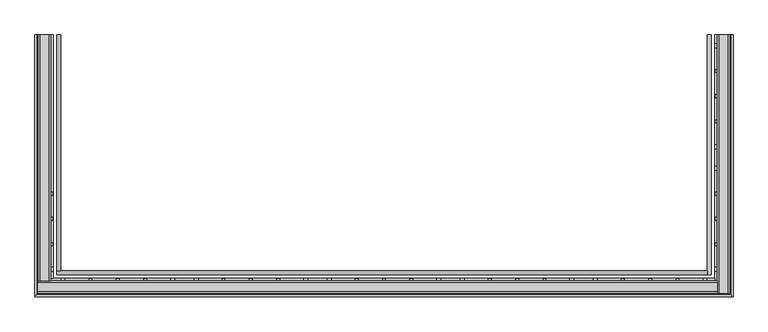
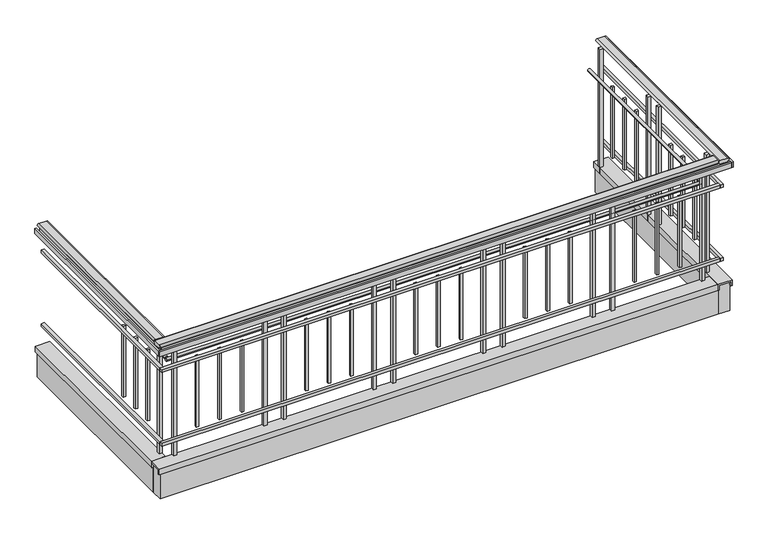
"""IFC4 building model written with IfcOpenShell, lengths in millimetres: railing geometry, Deco Type."""

from ifc_helpers import new_model, si_unit, point, frame, frame_2d, origin, origin_with_axes, place, context, project, spatial, polyline, circle_curve, trimmed, segment, composite_curve, outline, extrude, source, transform, mapped, element, save


def railing_da3c3019(model_context):
    return source(origin(), model_context, "Body", "SweptSolid", [
        extrude(outline(composite_curve([segment(polyline([(1098.55, -11224.1002872), (1098.55, -11287.4500398)]), True, "CONTINUOUS"), segment(trimmed(circle_curve(frame_2d((1087.4058145, -11287.4500398)), 11.1441855), [point((1098.55, -11287.4500398))], [point((1076.261629, -11287.4500398))], False, "CARTESIAN"), True, "CONTINUOUS"), segment(polyline([(1076.261629, -11287.4500398), (1066.8, -11287.4500398), (1066.8, -11224.1002872), (1076.3248415, -11224.1002872)]), True, "CONTINUOUS"), segment(trimmed(circle_curve(frame_2d((1087.4374207, -11224.1002872)), 11.1125793), [point((1076.3248415, -11224.1002872))], [point((1098.55, -11224.1002872))], False, "CARTESIAN"), True, "CONTINUOUS")], self_intersect=False)), frame((0.0, -9594.691348, 0.0), z_axis=(0.0, 1.0, 0.0), x_axis=(0.0, 0.0, 1.0)), (0.0, 0.0, 1.0), 1644.8001681),
        extrude(outline(composite_curve([segment(trimmed(circle_curve(frame_2d((-9605.8039273, 1087.4374207)), 11.1125793), [point((-9605.8039273, 1098.55))], [point((-9605.8039273, 1076.3248415))], False, "CARTESIAN"), True, "CONTINUOUS"), segment(polyline([(-9605.8039273, 1076.3248415), (-9605.8039273, 1066.8), (-9669.1536799, 1066.8), (-9669.1536799, 1076.261629)]), True, "CONTINUOUS"), segment(trimmed(circle_curve(frame_2d((-9669.1536799, 1087.4058145)), 11.1441855), [point((-9669.1536799, 1076.261629))], [point((-9669.1536799, 1098.55))], False, "CARTESIAN"), True, "CONTINUOUS"), segment(polyline([(-9669.1536799, 1098.55), (-9605.8039273, 1098.55)]), True, "CONTINUOUS")], self_intersect=False)), frame((-11298.5942253, 0.0, 0.0), z_axis=(1.0, 0.0, 0.0), x_axis=(0.0, 1.0, 0.0)), (0.0, 0.0, 1.0), 4545.1943536),
        extrude(outline(composite_curve([segment(trimmed(circle_curve(frame_2d((1087.4374207, -6742.2872924)), 11.1125793), [point((1098.55, -6742.2872924))], [point((1076.3248415, -6742.2872924))], False, "CARTESIAN"), True, "CONTINUOUS"), segment(polyline([(1076.3248415, -6742.2872924), (1066.8, -6742.2872924), (1066.8, -6678.9375398), (1076.261629, -6678.9375398)]), True, "CONTINUOUS"), segment(trimmed(circle_curve(frame_2d((1087.4058145, -6678.9375398)), 11.1441855), [point((1076.261629, -6678.9375398))], [point((1098.55, -6678.9375398))], False, "CARTESIAN"), True, "CONTINUOUS"), segment(polyline([(1098.55, -6678.9375398), (1098.55, -6742.2872924)]), True, "CONTINUOUS")], self_intersect=False)), frame((0.0, -9680.2978654, 0.0), z_axis=(0.0, 1.0, 0.0), x_axis=(0.0, 0.0, 1.0)), (0.0, 0.0, 1.0), 1730.4066855),
        extrude(outline(polyline([(-11281.1751635, -7949.8911799), (-11268.4751635, -7949.8911799), (-11268.4751635, -9650.1788036), (-11281.1751635, -9650.1788036), (-11281.1751635, -7949.8911799)])), frame((0.0, 0.0, 1022.35), z_axis=(0.0, 0.0, 1.0), x_axis=(1.0, 0.0, 0.0)), (0.0, 0.0, 1.0), 44.45),
        extrude(outline(polyline([(-11281.1751635, -9662.8788036), (-11281.1751635, -9650.1788036), (-6697.9124161, -9650.1788036), (-6697.9124161, -9662.8788036), (-11281.1751635, -9662.8788036)])), frame((0.0, 0.0, 1022.35), z_axis=(0.0, 0.0, 1.0), x_axis=(1.0, 0.0, 0.0)), (0.0, 0.0, 1.0), 44.45),
        extrude(outline(polyline([(-6685.2124161, -9662.8788036), (-6697.9124161, -9662.8788036), (-6697.9124161, -7949.8911799), (-6685.2124161, -7949.8911799), (-6685.2124161, -9662.8788036)])), frame((0.0, 0.0, 1022.35), z_axis=(0.0, 0.0, 1.0), x_axis=(1.0, 0.0, 0.0)), (0.0, 0.0, 1.0), 44.45),
        extrude(outline(polyline([(-11319.2751635, -7949.8911799), (-11306.5751635, -7949.8911799), (-11306.5751635, -9688.2788036), (-11319.2751635, -9688.2788036), (-11319.2751635, -7949.8911799)])), frame((0.0, 0.0, 1022.35), z_axis=(0.0, 0.0, 1.0), x_axis=(1.0, 0.0, 0.0)), (0.0, 0.0, 1.0), 44.45),
        extrude(outline(polyline([(-11319.2751635, -9700.9788036), (-11319.2751635, -9688.2788036), (-6659.8124161, -9688.2788036), (-6659.8124161, -9700.9788036), (-11319.2751635, -9700.9788036)])), frame((0.0, 0.0, 1022.35), z_axis=(0.0, 0.0, 1.0), x_axis=(1.0, 0.0, 0.0)), (0.0, 0.0, 1.0), 44.45),
        extrude(outline(polyline([(-6647.1124161, -9700.9788036), (-6659.8124161, -9700.9788036), (-6659.8124161, -7949.8911799), (-6647.1124161, -7949.8911799), (-6647.1124161, -9700.9788036)])), frame((0.0, 0.0, 1022.35), z_axis=(0.0, 0.0, 1.0), x_axis=(1.0, 0.0, 0.0)), (0.0, 0.0, 1.0), 44.45),
        extrude(outline(polyline([(-11268.4000398, -7949.8911799), (-11243.0000398, -7949.8911799), (-11243.0000398, -9624.7036799), (-11268.4000398, -9624.7036799), (-11268.4000398, -7949.8911799)])), frame((0.0, 0.0, 838.2), z_axis=(0.0, 0.0, 1.0), x_axis=(1.0, 0.0, 0.0)), (0.0, 0.0, 1.0), 25.4),
        extrude(outline(polyline([(-11268.4000398, -9650.1036799), (-11268.4000398, -9624.7036799), (-6723.3875398, -9624.7036799), (-6723.3875398, -9650.1036799), (-11268.4000398, -9650.1036799)])), frame((0.0, 0.0, 838.2), z_axis=(0.0, 0.0, 1.0), x_axis=(1.0, 0.0, 0.0)), (0.0, 0.0, 1.0), 25.4),
        extrude(outline(polyline([(-6697.9875398, -9650.1036799), (-6723.3875398, -9650.1036799), (-6723.3875398, -7949.8911799), (-6697.9875398, -7949.8911799), (-6697.9875398, -9650.1036799)])), frame((0.0, 0.0, 838.2), z_axis=(0.0, 0.0, 1.0), x_axis=(1.0, 0.0, 0.0)), (0.0, 0.0, 1.0), 25.4),
        extrude(outline(composite_curve([segment(trimmed(circle_curve(frame_2d((850.9, -11158.8625398)), 12.7), [point((850.9, -11146.1625398))], [point((850.9, -11171.5625398))], False, "CARTESIAN"), True, "CONTINUOUS"), segment(trimmed(circle_curve(frame_2d((850.9, -11158.8625398)), 12.7), [point((850.9, -11171.5625398))], [point((850.9, -11146.1625398))], False, "CARTESIAN"), True, "CONTINUOUS")], self_intersect=False)), frame((0.0, -9527.8661799, 0.0), z_axis=(0.0, 1.0, 0.0), x_axis=(0.0, 0.0, 1.0)), (0.0, 0.0, 1.0), 1577.975),
        extrude(outline(composite_curve([segment(trimmed(circle_curve(frame_2d((-9540.5661799, 850.9)), 12.7), [point((-9527.8661799, 850.9))], [point((-9553.2661799, 850.9))], False, "CARTESIAN"), True, "CONTINUOUS"), segment(trimmed(circle_curve(frame_2d((-9540.5661799, 850.9)), 12.7), [point((-9553.2661799, 850.9))], [point((-9527.8661799, 850.9))], False, "CARTESIAN"), True, "CONTINUOUS")], self_intersect=False)), frame((-11171.5625398, 0.0, 0.0), z_axis=(1.0, 0.0, 0.0), x_axis=(0.0, 1.0, 0.0)), (0.0, 0.0, 1.0), 4351.3375),
        extrude(outline(composite_curve([segment(trimmed(circle_curve(frame_2d((850.9, -6807.5250398)), 12.7), [point((850.9, -6820.2250398))], [point((850.9, -6794.8250398))], False, "CARTESIAN"), True, "CONTINUOUS"), segment(trimmed(circle_curve(frame_2d((850.9, -6807.5250398)), 12.7), [point((850.9, -6794.8250398))], [point((850.9, -6820.2250398))], False, "CARTESIAN"), True, "CONTINUOUS")], self_intersect=False)), frame((0.0, -9553.2661799, 0.0), z_axis=(0.0, 1.0, 0.0), x_axis=(0.0, 0.0, 1.0)), (0.0, 0.0, 1.0), 1603.375),
        extrude(outline(polyline([(-11268.4000398, -7949.8911799), (-11243.0000398, -7949.8911799), (-11243.0000398, -9624.7036799), (-11268.4000398, -9624.7036799), (-11268.4000398, -7949.8911799)])), frame((0.0, 0.0, 203.2), z_axis=(0.0, 0.0, 1.0), x_axis=(1.0, 0.0, 0.0)), (0.0, 0.0, 1.0), 25.4),
        extrude(outline(polyline([(-11268.4000398, -9650.1036799), (-11268.4000398, -9624.7036799), (-6723.3875398, -9624.7036799), (-6723.3875398, -9650.1036799), (-11268.4000398, -9650.1036799)])), frame((0.0, 0.0, 203.2), z_axis=(0.0, 0.0, 1.0), x_axis=(1.0, 0.0, 0.0)), (0.0, 0.0, 1.0), 25.4),
        extrude(outline(polyline([(-6697.9875398, -9650.1036799), (-6723.3875398, -9650.1036799), (-6723.3875398, -7949.8911799), (-6697.9875398, -7949.8911799), (-6697.9875398, -9650.1036799)])), frame((0.0, 0.0, 203.2), z_axis=(0.0, 0.0, 1.0), x_axis=(1.0, 0.0, 0.0)), (0.0, 0.0, 1.0), 25.4),
        extrude(outline(polyline([(49.0362864, -11197.0376635), (49.0362864, -11314.5126635), (0.0, -11314.5126635), (0.0, -11301.8126635), (36.3362864, -11301.8126635), (36.3362864, -11209.7376635), (0.0, -11209.7376635), (0.0, -11197.0376635), (49.0362864, -11197.0376635)])), frame((0.0, -9578.7413036, 0.0), z_axis=(0.0, 1.0, 0.0), x_axis=(0.0, 0.0, 1.0)), (0.0, 0.0, 1.0), 1628.8501237),
        extrude(outline(polyline([(-9578.7413036, 49.0362864), (-9578.7413036, 0.0), (-9591.4413036, 0.0), (-9591.4413036, 36.3362864), (-9683.5163036, 36.3362864), (-9683.5163036, 0.0), (-9696.2163036, 0.0), (-9696.2163036, 49.0362864), (-9578.7413036, 49.0362864)])), frame((-11314.5126635, 0.0, 0.0), z_axis=(1.0, 0.0, 0.0), x_axis=(0.0, 1.0, 0.0)), (0.0, 0.0, 1.0), 4545.1627474),
        extrude(outline(polyline([(49.0362864, -6769.3499161), (0.0, -6769.3499161), (0.0, -6756.6499161), (36.3362864, -6756.6499161), (36.3362864, -6664.5749161), (0.0, -6664.5749161), (0.0, -6651.8749161), (49.0362864, -6651.8749161), (49.0362864, -6769.3499161)])), frame((0.0, -9696.2163036, 0.0), z_axis=(0.0, 1.0, 0.0), x_axis=(0.0, 0.0, 1.0)), (0.0, 0.0, 1.0), 1746.3251237),
        extrude(outline(polyline([(-11301.8126635, -7949.8911799), (-11209.7376635, -7949.8911799), (-11209.7376635, -9591.4413036), (-11301.8126635, -9591.4413036), (-11301.8126635, -7949.8911799)])), frame((0.0, 0.0, -217.6637136), z_axis=(0.0, 0.0, 1.0), x_axis=(1.0, 0.0, 0.0)), (0.0, 0.0, 1.0), 254.0),
        extrude(outline(polyline([(-11301.8126635, -9683.5163036), (-11301.8126635, -9591.4413036), (-6756.6499161, -9591.4413036), (-6756.6499161, -9683.5163036), (-11301.8126635, -9683.5163036)])), frame((0.0, 0.0, -217.6637136), z_axis=(0.0, 0.0, 1.0), x_axis=(1.0, 0.0, 0.0)), (0.0, 0.0, 1.0), 254.0),
        extrude(outline(polyline([(-6664.5749161, -9683.5163036), (-6756.6499161, -9683.5163036), (-6756.6499161, -7949.8911799), (-6664.5749161, -7949.8911799), (-6664.5749161, -9683.5163036)])), frame((0.0, 0.0, -217.6637136), z_axis=(0.0, 0.0, 1.0), x_axis=(1.0, 0.0, 0.0)), (0.0, 0.0, 1.0), 254.0),
        extrude(outline(polyline([(-6744.0250398, -8035.0091946), (-6769.4250398, -8035.0091946), (-6769.4250398, -8009.6091946), (-6744.0250398, -8009.6091946), (-6744.0250398, -8035.0091946)])), origin_with_axes(), (0.0, 0.0, 1.0), 1066.8),
        extrude(outline(polyline([(-6747.2000398, -8200.8095623), (-6766.2500398, -8200.8095623), (-6766.2500398, -8181.7595623), (-6747.2000398, -8181.7595623), (-6747.2000398, -8200.8095623)])), frame((0.0, 0.0, 228.6), z_axis=(0.0, 0.0, 1.0), x_axis=(1.0, 0.0, 0.0)), (0.0, 0.0, 1.0), 609.6),
        extrude(outline(polyline([(-6747.2000398, -8369.7849299), (-6766.2500398, -8369.7849299), (-6766.2500398, -8350.7349299), (-6747.2000398, -8350.7349299), (-6747.2000398, -8369.7849299)])), frame((0.0, 0.0, 228.6), z_axis=(0.0, 0.0, 1.0), x_axis=(1.0, 0.0, 0.0)), (0.0, 0.0, 1.0), 609.6),
        extrude(outline(polyline([(-6747.2000398, -8538.7602976), (-6766.2500398, -8538.7602976), (-6766.2500398, -8519.7102976), (-6747.2000398, -8519.7102976), (-6747.2000398, -8538.7602976)])), frame((0.0, 0.0, 228.6), z_axis=(0.0, 0.0, 1.0), x_axis=(1.0, 0.0, 0.0)), (0.0, 0.0, 1.0), 609.6),
        extrude(outline(polyline([(-6744.0250398, -8710.9106652), (-6769.4250398, -8710.9106652), (-6769.4250398, -8685.5106652), (-6744.0250398, -8685.5106652), (-6744.0250398, -8710.9106652)])), origin_with_axes(), (0.0, 0.0, 1.0), 1066.8),
        extrude(outline(polyline([(-6744.0250398, -8855.7466946), (-6769.4250398, -8855.7466946), (-6769.4250398, -8830.3466946), (-6744.0250398, -8830.3466946), (-6744.0250398, -8855.7466946)])), origin_with_axes(), (0.0, 0.0, 1.0), 1066.8),
        extrude(outline(polyline([(-6747.2000398, -9021.5470623), (-6766.2500398, -9021.5470623), (-6766.2500398, -9002.4970623), (-6747.2000398, -9002.4970623), (-6747.2000398, -9021.5470623)])), frame((0.0, 0.0, 228.6), z_axis=(0.0, 0.0, 1.0), x_axis=(1.0, 0.0, 0.0)), (0.0, 0.0, 1.0), 609.6),
        extrude(outline(polyline([(-6747.2000398, -9190.5224299), (-6766.2500398, -9190.5224299), (-6766.2500398, -9171.4724299), (-6747.2000398, -9171.4724299), (-6747.2000398, -9190.5224299)])), frame((0.0, 0.0, 228.6), z_axis=(0.0, 0.0, 1.0), x_axis=(1.0, 0.0, 0.0)), (0.0, 0.0, 1.0), 609.6),
        extrude(outline(polyline([(-6747.2000398, -9359.4977976), (-6766.2500398, -9359.4977976), (-6766.2500398, -9340.4477976), (-6747.2000398, -9340.4477976), (-6747.2000398, -9359.4977976)])), frame((0.0, 0.0, 228.6), z_axis=(0.0, 0.0, 1.0), x_axis=(1.0, 0.0, 0.0)), (0.0, 0.0, 1.0), 609.6),
        extrude(outline(polyline([(-6744.0250398, -9531.6481652), (-6769.4250398, -9531.6481652), (-6769.4250398, -9506.2481652), (-6744.0250398, -9506.2481652), (-6744.0250398, -9531.6481652)])), origin_with_axes(), (0.0, 0.0, 1.0), 1066.8),
        extrude(outline(polyline([(-6848.0062898, -9604.0661799), (-6848.0062898, -9578.6661799), (-6822.6062898, -9578.6661799), (-6822.6062898, -9604.0661799), (-6848.0062898, -9604.0661799)])), origin_with_axes(), (0.0, 0.0, 1.0), 1066.8),
        extrude(outline(polyline([(-7028.1875398, -9600.8911799), (-7028.1875398, -9581.8411799), (-7009.1375398, -9581.8411799), (-7009.1375398, -9600.8911799), (-7028.1875398, -9600.8911799)])), frame((0.0, 0.0, 228.6), z_axis=(0.0, 0.0, 1.0), x_axis=(1.0, 0.0, 0.0)), (0.0, 0.0, 1.0), 609.6),
        extrude(outline(polyline([(-7211.5437898, -9600.8911799), (-7211.5437898, -9581.8411799), (-7192.4937898, -9581.8411799), (-7192.4937898, -9600.8911799), (-7211.5437898, -9600.8911799)])), frame((0.0, 0.0, 228.6), z_axis=(0.0, 0.0, 1.0), x_axis=(1.0, 0.0, 0.0)), (0.0, 0.0, 1.0), 609.6),
        extrude(outline(polyline([(-7394.9000398, -9600.8911799), (-7394.9000398, -9581.8411799), (-7375.8500398, -9581.8411799), (-7375.8500398, -9600.8911799), (-7394.9000398, -9600.8911799)])), frame((0.0, 0.0, 228.6), z_axis=(0.0, 0.0, 1.0), x_axis=(1.0, 0.0, 0.0)), (0.0, 0.0, 1.0), 609.6),
        extrude(outline(polyline([(-7581.4312898, -9604.0661799), (-7581.4312898, -9578.6661799), (-7556.0312898, -9578.6661799), (-7556.0312898, -9604.0661799), (-7581.4312898, -9604.0661799)])), origin_with_axes(), (0.0, 0.0, 1.0), 1066.8),
        extrude(outline(polyline([(-7738.5937898, -9604.0661799), (-7738.5937898, -9578.6661799), (-7713.1937898, -9578.6661799), (-7713.1937898, -9604.0661799), (-7738.5937898, -9604.0661799)])), origin_with_axes(), (0.0, 0.0, 1.0), 1066.8),
        extrude(outline(polyline([(-7918.7750398, -9600.8911799), (-7918.7750398, -9581.8411799), (-7899.7250398, -9581.8411799), (-7899.7250398, -9600.8911799), (-7918.7750398, -9600.8911799)])), frame((0.0, 0.0, 228.6), z_axis=(0.0, 0.0, 1.0), x_axis=(1.0, 0.0, 0.0)), (0.0, 0.0, 1.0), 609.6),
        extrude(outline(polyline([(-8102.1312898, -9600.8911799), (-8102.1312898, -9581.8411799), (-8083.0812898, -9581.8411799), (-8083.0812898, -9600.8911799), (-8102.1312898, -9600.8911799)])), frame((0.0, 0.0, 228.6), z_axis=(0.0, 0.0, 1.0), x_axis=(1.0, 0.0, 0.0)), (0.0, 0.0, 1.0), 609.6),
        extrude(outline(polyline([(-8285.4875398, -9600.8911799), (-8285.4875398, -9581.8411799), (-8266.4375398, -9581.8411799), (-8266.4375398, -9600.8911799), (-8285.4875398, -9600.8911799)])), frame((0.0, 0.0, 228.6), z_axis=(0.0, 0.0, 1.0), x_axis=(1.0, 0.0, 0.0)), (0.0, 0.0, 1.0), 609.6),
        extrude(outline(polyline([(-8472.0187898, -9604.0661799), (-8472.0187898, -9578.6661799), (-8446.6187898, -9578.6661799), (-8446.6187898, -9604.0661799), (-8472.0187898, -9604.0661799)])), origin_with_axes(), (0.0, 0.0, 1.0), 1066.8),
        extrude(outline(polyline([(-8629.1812898, -9604.0661799), (-8629.1812898, -9578.6661799), (-8603.7812898, -9578.6661799), (-8603.7812898, -9604.0661799), (-8629.1812898, -9604.0661799)])), origin_with_axes(), (0.0, 0.0, 1.0), 1066.8),
        extrude(outline(polyline([(-8809.3625398, -9600.8911799), (-8809.3625398, -9581.8411799), (-8790.3125398, -9581.8411799), (-8790.3125398, -9600.8911799), (-8809.3625398, -9600.8911799)])), frame((0.0, 0.0, 228.6), z_axis=(0.0, 0.0, 1.0), x_axis=(1.0, 0.0, 0.0)), (0.0, 0.0, 1.0), 609.6),
        extrude(outline(polyline([(-8992.7187898, -9600.8911799), (-8992.7187898, -9581.8411799), (-8973.6687898, -9581.8411799), (-8973.6687898, -9600.8911799), (-8992.7187898, -9600.8911799)])), frame((0.0, 0.0, 228.6), z_axis=(0.0, 0.0, 1.0), x_axis=(1.0, 0.0, 0.0)), (0.0, 0.0, 1.0), 609.6),
        extrude(outline(polyline([(-9176.0750398, -9600.8911799), (-9176.0750398, -9581.8411799), (-9157.0250398, -9581.8411799), (-9157.0250398, -9600.8911799), (-9176.0750398, -9600.8911799)])), frame((0.0, 0.0, 228.6), z_axis=(0.0, 0.0, 1.0), x_axis=(1.0, 0.0, 0.0)), (0.0, 0.0, 1.0), 609.6),
        extrude(outline(polyline([(-9362.6062898, -9604.0661799), (-9362.6062898, -9578.6661799), (-9337.2062898, -9578.6661799), (-9337.2062898, -9604.0661799), (-9362.6062898, -9604.0661799)])), origin_with_axes(), (0.0, 0.0, 1.0), 1066.8),
        extrude(outline(polyline([(-9519.7687898, -9604.0661799), (-9519.7687898, -9578.6661799), (-9494.3687898, -9578.6661799), (-9494.3687898, -9604.0661799), (-9519.7687898, -9604.0661799)])), origin_with_axes(), (0.0, 0.0, 1.0), 1066.8),
        extrude(outline(polyline([(-9699.9500398, -9600.8911799), (-9699.9500398, -9581.8411799), (-9680.9000398, -9581.8411799), (-9680.9000398, -9600.8911799), (-9699.9500398, -9600.8911799)])), frame((0.0, 0.0, 228.6), z_axis=(0.0, 0.0, 1.0), x_axis=(1.0, 0.0, 0.0)), (0.0, 0.0, 1.0), 609.6),
        extrude(outline(polyline([(-9883.3062898, -9600.8911799), (-9883.3062898, -9581.8411799), (-9864.2562898, -9581.8411799), (-9864.2562898, -9600.8911799), (-9883.3062898, -9600.8911799)])), frame((0.0, 0.0, 228.6), z_axis=(0.0, 0.0, 1.0), x_axis=(1.0, 0.0, 0.0)), (0.0, 0.0, 1.0), 609.6),
        extrude(outline(polyline([(-10066.6625398, -9600.8911799), (-10066.6625398, -9581.8411799), (-10047.6125398, -9581.8411799), (-10047.6125398, -9600.8911799), (-10066.6625398, -9600.8911799)])), frame((0.0, 0.0, 228.6), z_axis=(0.0, 0.0, 1.0), x_axis=(1.0, 0.0, 0.0)), (0.0, 0.0, 1.0), 609.6),
        extrude(outline(polyline([(-10253.1937898, -9604.0661799), (-10253.1937898, -9578.6661799), (-10227.7937898, -9578.6661799), (-10227.7937898, -9604.0661799), (-10253.1937898, -9604.0661799)])), origin_with_axes(), (0.0, 0.0, 1.0), 1066.8),
        extrude(outline(polyline([(-10410.3562898, -9604.0661799), (-10410.3562898, -9578.6661799), (-10384.9562898, -9578.6661799), (-10384.9562898, -9604.0661799), (-10410.3562898, -9604.0661799)])), origin_with_axes(), (0.0, 0.0, 1.0), 1066.8),
        extrude(outline(polyline([(-10590.5375398, -9600.8911799), (-10590.5375398, -9581.8411799), (-10571.4875398, -9581.8411799), (-10571.4875398, -9600.8911799), (-10590.5375398, -9600.8911799)])), frame((0.0, 0.0, 228.6), z_axis=(0.0, 0.0, 1.0), x_axis=(1.0, 0.0, 0.0)), (0.0, 0.0, 1.0), 609.6),
        extrude(outline(polyline([(-10773.8937898, -9600.8911799), (-10773.8937898, -9581.8411799), (-10754.8437898, -9581.8411799), (-10754.8437898, -9600.8911799), (-10773.8937898, -9600.8911799)])), frame((0.0, 0.0, 228.6), z_axis=(0.0, 0.0, 1.0), x_axis=(1.0, 0.0, 0.0)), (0.0, 0.0, 1.0), 609.6),
        extrude(outline(polyline([(-10957.2500398, -9600.8911799), (-10957.2500398, -9581.8411799), (-10938.2000398, -9581.8411799), (-10938.2000398, -9600.8911799), (-10957.2500398, -9600.8911799)])), frame((0.0, 0.0, 228.6), z_axis=(0.0, 0.0, 1.0), x_axis=(1.0, 0.0, 0.0)), (0.0, 0.0, 1.0), 609.6),
        extrude(outline(polyline([(-11143.7812898, -9604.0661799), (-11143.7812898, -9578.6661799), (-11118.3812898, -9578.6661799), (-11118.3812898, -9604.0661799), (-11143.7812898, -9604.0661799)])), origin_with_axes(), (0.0, 0.0, 1.0), 1066.8),
        extrude(outline(polyline([(-11222.3625398, -9506.2481652), (-11196.9625398, -9506.2481652), (-11196.9625398, -9531.6481652), (-11222.3625398, -9531.6481652), (-11222.3625398, -9506.2481652)])), origin_with_axes(), (0.0, 0.0, 1.0), 1066.8),
        extrude(outline(polyline([(-11219.1875398, -9340.4477976), (-11200.1375398, -9340.4477976), (-11200.1375398, -9359.4977976), (-11219.1875398, -9359.4977976), (-11219.1875398, -9340.4477976)])), frame((0.0, 0.0, 228.6), z_axis=(0.0, 0.0, 1.0), x_axis=(1.0, 0.0, 0.0)), (0.0, 0.0, 1.0), 609.6),
        extrude(outline(polyline([(-11219.1875398, -9171.4724299), (-11200.1375398, -9171.4724299), (-11200.1375398, -9190.5224299), (-11219.1875398, -9190.5224299), (-11219.1875398, -9171.4724299)])), frame((0.0, 0.0, 228.6), z_axis=(0.0, 0.0, 1.0), x_axis=(1.0, 0.0, 0.0)), (0.0, 0.0, 1.0), 609.6),
        extrude(outline(polyline([(-11219.1875398, -9002.4970623), (-11200.1375398, -9002.4970623), (-11200.1375398, -9021.5470623), (-11219.1875398, -9021.5470623), (-11219.1875398, -9002.4970623)])), frame((0.0, 0.0, 228.6), z_axis=(0.0, 0.0, 1.0), x_axis=(1.0, 0.0, 0.0)), (0.0, 0.0, 1.0), 609.6),
    ])


if __name__ == "__main__":
    model = new_model("IFC4")
    model_context = context("Model", 3, world=origin())
    ifc_project = project(units=[si_unit("LENGTHUNIT", "METRE", prefix="MILLI")], contexts=[model_context])
    site = spatial("IfcSite", under=ifc_project)
    building = spatial("IfcBuilding", under=site)
    placement = place(None, origin())
    railing_shape = railing_da3c3019(model_context)
    element("IfcRailing", 1, ObjectType="Deco Type", at=placement, inside=building, context=model_context, shape_type="MappedRepresentation", body=[
        mapped(railing_shape, transform((0.0, 0.0, 0.0), x_axis=(1.0, 0.0, 0.0), y_axis=(0.0, 1.0, 0.0), z_axis=(0.0, 0.0, 1.0))),
    ])
    save(model, "model.ifc")
